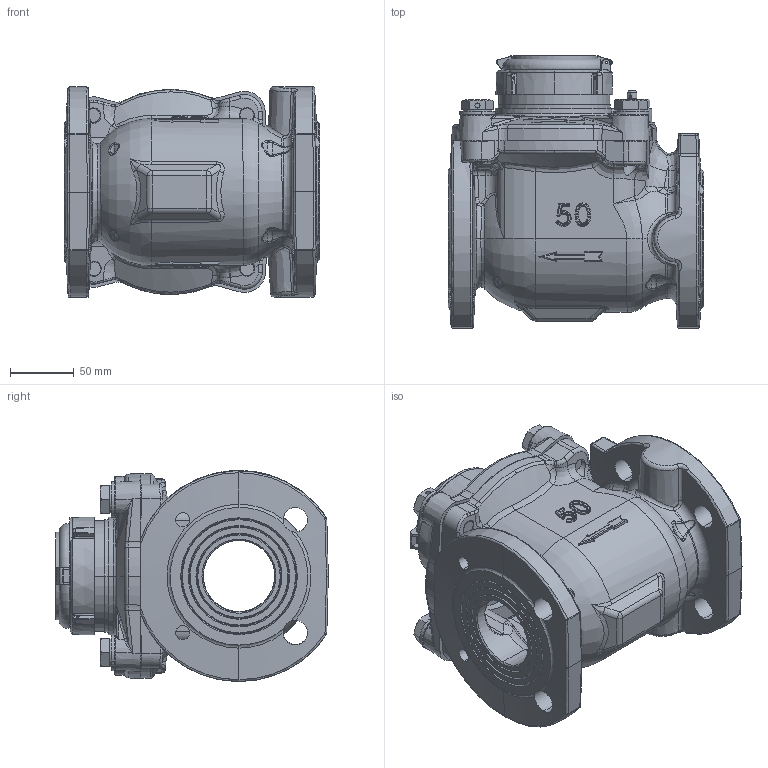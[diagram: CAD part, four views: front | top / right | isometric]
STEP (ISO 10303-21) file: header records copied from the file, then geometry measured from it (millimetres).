
FILE_DESCRIPTION (( 'STEP AP203' ), '1' );
FILE_NAME ('13311009-00,WTII 2 ISO m3 EEC.STEP', '2011-05-16T06:13:28', ( 'àøã-ãìéä áò"î' ), ( '' ), 'SwSTEP 2.0', 'SolidWorks 2011', '' );
FILE_SCHEMA (( 'CONFIG_CONTROL_DESIGN' ));
Products named in the file (10): 13311009-00,WTII 2 ISO m3 EEC; FLAT WASHERS DIN 125 A (ISO 7089)(M14 ( 2 30 266 09 )); 21082110-02,Hex cap screw M14x35 drilled(21082120); Hex cap screws MxL DIN 933(M14x40(21082119 -00)); 25222255-11,Cover WT_WST 2''''-4''''(2 52 222 09 -11); 21082009-21,Regulator cap screw WT; 32210055-19,32414255-02,Body WT 2(3 22 101 09 -19); a,25820329-04,Register cover 19 with plastic lid ARAD; p,27630309-05,Plastic lid ARAD(hor)-1; 25820309-18,Register cover 19-1
Assembly tree (14 placements, depth 3):
  13311009-00,WTII 2 ISO m3 EEC
    FLAT WASHERS DIN 125 A (ISO 7089)(M14 ( 2 30 266 09 ))  x4
    21082110-02,Hex cap screw M14x35 drilled(21082120)
    a,25820329-04,Register cover 19 with plastic lid ARAD
      25820309-18,Register cover 19-1
      p,27630309-05,Plastic lid ARAD(hor)-1
    Hex cap screws MxL DIN 933(M14x40(21082119 -00))  x3
    25222255-11,Cover WT_WST 2''''-4''''(2 52 222 09 -11)
    21082009-21,Regulator cap screw WT
    32210055-19,32414255-02,Body WT 2(3 22 101 09 -19)
Bounding box: 200.19 x 213.6 x 165.25 mm (x, y, z)
Volume: 1671336.9 mm3; surface area: 362082.1 mm2
Topology: 13 solids, 13 shells, 1788 faces, 4398 edges, 2571 vertices
Faces by surface type: bspline 599, plane 403, cylinder 373, torus 195, cone 194, sphere 24
Entity records: 79035 total; most frequent: CARTESIAN_POINT 42749, ORIENTED_EDGE 8296, DIRECTION 6090, EDGE_CURVE 4148, AXIS2_PLACEMENT_3D 2522, VERTEX_POINT 2483, EDGE_LOOP 1819, FACE_OUTER_BOUND 1716
